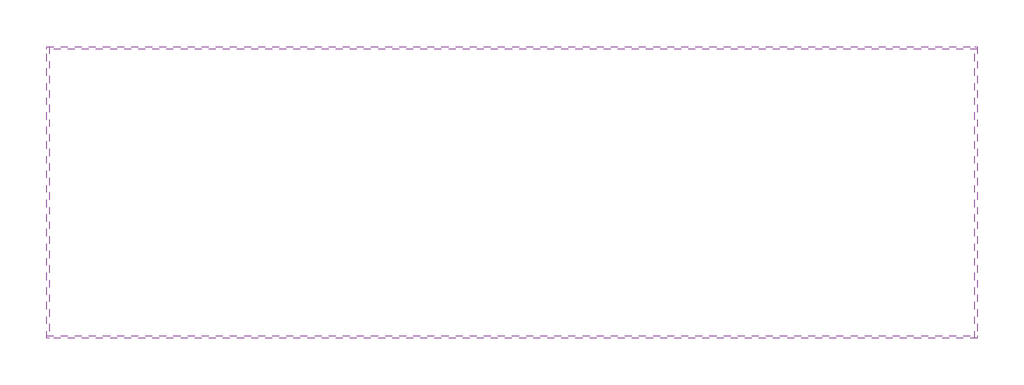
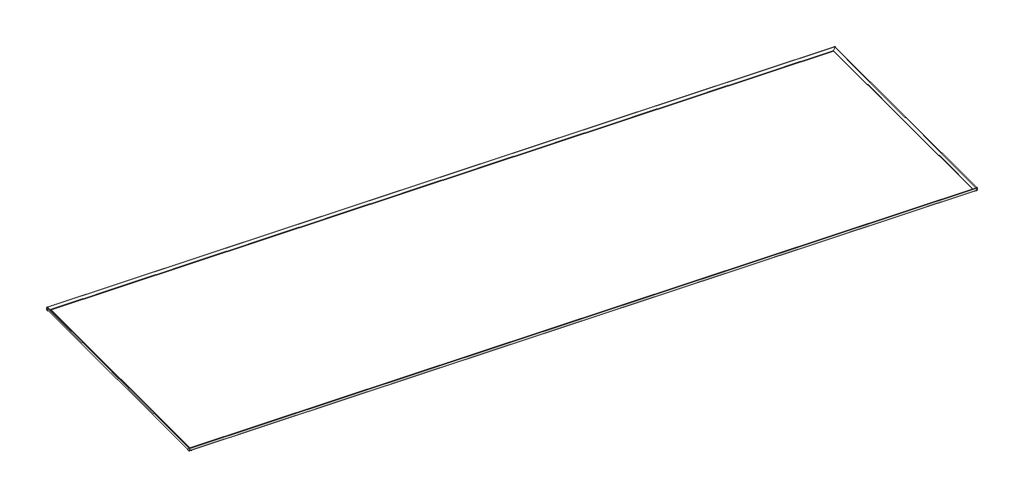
# One storey: 4 slabs.
"""IFC4 building model written with IfcOpenShell, lengths in millimetres."""

from ifc_helpers import new_model, si_unit, origin, place, context, project, spatial, transform, mapped, element, save
from components import slab_4f7eb371, slab_998922ee

model = new_model("IFC4")

# Units and contexts
model_context = context("Model", 3, world=origin())
ifc_project = project(units=[si_unit("LENGTHUNIT", "METRE", prefix="MILLI")], contexts=[model_context])

# Site, building, storey
site = spatial("IfcSite", under=ifc_project)
building = spatial("IfcBuilding", under=site)
storey = spatial("IfcBuildingStorey", under=building, Name="4_NFondo2P1 -3.3", Elevation=-3300.0)

# Slabs
placement = place(None, origin())
slab_shape = slab_4f7eb371(model_context)
element("IfcSlab", 1, ObjectType="ROSA GRES_188 : Pieza 188_Pietro_White_Anti-Slip", at=placement, inside=storey, context=model_context, shape_type="MappedRepresentation", body=[
    mapped(slab_shape, transform((16609.4618039, 7775.6118251, -1509.9734114), x_axis=(0.0, 1.0, 0.0), y_axis=(-1.0, 0.0, 0.0), z_axis=(0.0, 0.0, 1.0))),
])
element("IfcSlab", 2, ObjectType="ROSA GRES_188 : Pieza 188_Pietro_White_Anti-Slip", at=placement, inside=storey, context=model_context, shape_type="MappedRepresentation", body=[
    mapped(slab_shape, transform((3789.514981, 11795.5586479, -1509.9734114), x_axis=(0.0, -1.0, 0.0), y_axis=(1.0, 0.0, 0.0), z_axis=(0.0, 0.0, 1.0))),
])
slab_2_shape = slab_998922ee(model_context)
element("IfcSlab", 3, ObjectType="ROSA GRES_188 : Pieza 188_Pietro_White_Anti-Slip", at=placement, inside=storey, context=model_context, shape_type="MappedRepresentation", body=[
    mapped(slab_2_shape, transform((3789.514981, 7775.6118251, -1509.9734114), x_axis=(1.0, 0.0, 0.0), y_axis=(0.0, 1.0, 0.0), z_axis=(0.0, 0.0, 1.0))),
])
element("IfcSlab", 4, ObjectType="ROSA GRES_188 : Pieza 188_Pietro_White_Anti-Slip", at=placement, inside=storey, context=model_context, shape_type="MappedRepresentation", body=[
    mapped(slab_2_shape, transform((16609.4618039, 11795.5586479, -1509.9734114), x_axis=(-1.0, 0.0, 0.0), y_axis=(0.0, -1.0, 0.0), z_axis=(0.0, 0.0, 1.0))),
])

save(model, "model.ifc")
